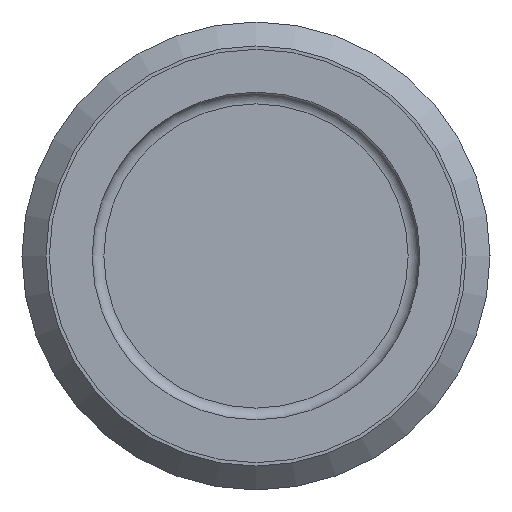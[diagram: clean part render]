
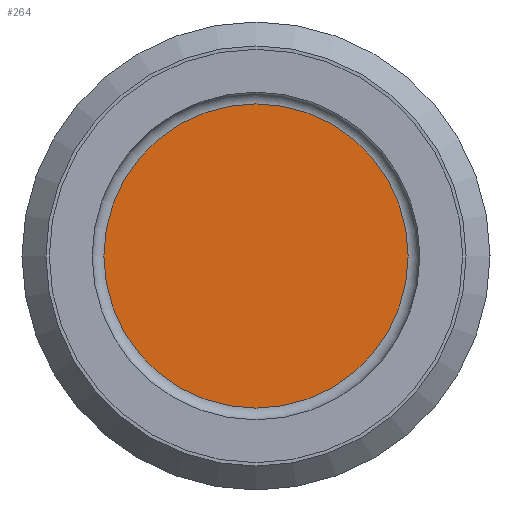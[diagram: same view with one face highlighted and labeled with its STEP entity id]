
A CAD part, left-side view. The second image highlights one B-rep face of the part: STEP entity #264.
In plain terms, the highlighted planar face has unit normal (-1, 0, 0).
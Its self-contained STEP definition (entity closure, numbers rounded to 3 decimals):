
#33=PLANE('',#303);
#48=ORIENTED_EDGE('',*,*,#94,.F.);
#94=EDGE_CURVE('',#117,#117,#140,.T.);
#117=VERTEX_POINT('',#487);
#140=CIRCLE('',#304,3.9);
#163=EDGE_LOOP('',(#48));
#209=FACE_BOUND('',#163,.T.);
#264=ADVANCED_FACE('',(#209),#33,.F.);
#303=AXIS2_PLACEMENT_3D('',#485,#351,#352);
#304=AXIS2_PLACEMENT_3D('',#486,#353,#354);
#351=DIRECTION('',(1.,0.,0.));
#352=DIRECTION('',(0.,0.,-1.));
#353=DIRECTION('',(1.,0.,0.));
#354=DIRECTION('',(0.,0.,-1.));
#485=CARTESIAN_POINT('',(8.9,0.,0.));
#486=CARTESIAN_POINT('',(8.9,0.,0.));
#487=CARTESIAN_POINT('',(8.9,0.,-3.9));
